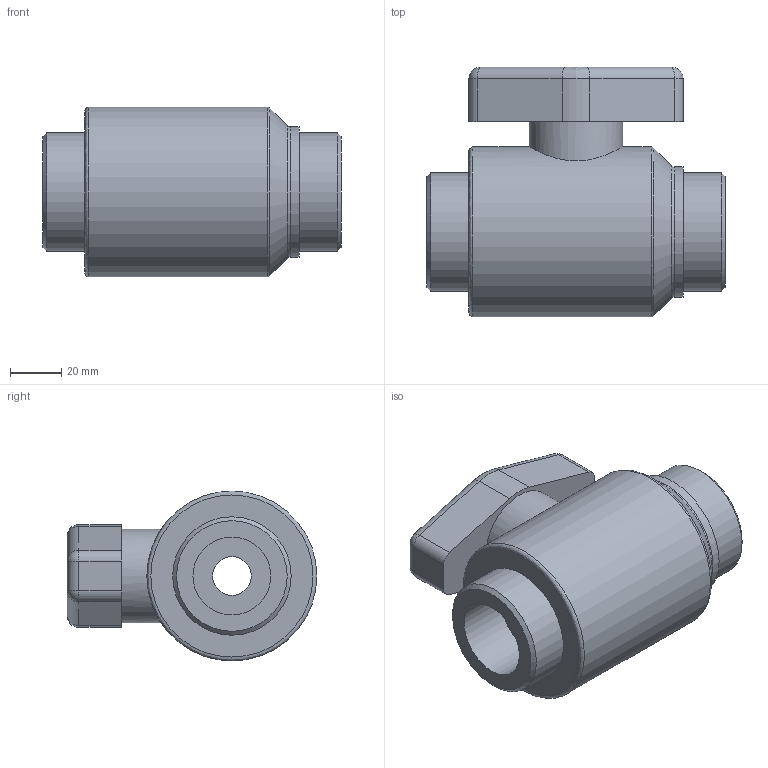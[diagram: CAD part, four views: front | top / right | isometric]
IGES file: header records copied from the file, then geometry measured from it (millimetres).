
Global section: file name: 0370300010_037030F010.ipt; native system: Autodesk Inventor 2015; preprocessor: unknown; author: KIM; date: 20190627.094219; units: millimetre
Bounding box: 116 x 97 x 66 mm (x, y, z)
Volume: 347234.8 mm3; surface area: 42455 mm2
Topology: 1 solids, 1 shells, 46 faces, 106 edges, 67 vertices
Faces by surface type: cylinder 17, plane 14, revolution 8, sphere 4, cone 3
Full cylindrical faces by diameter (mm): 36.349 x1, 46 x2, 50.6 x1, 66 x1
